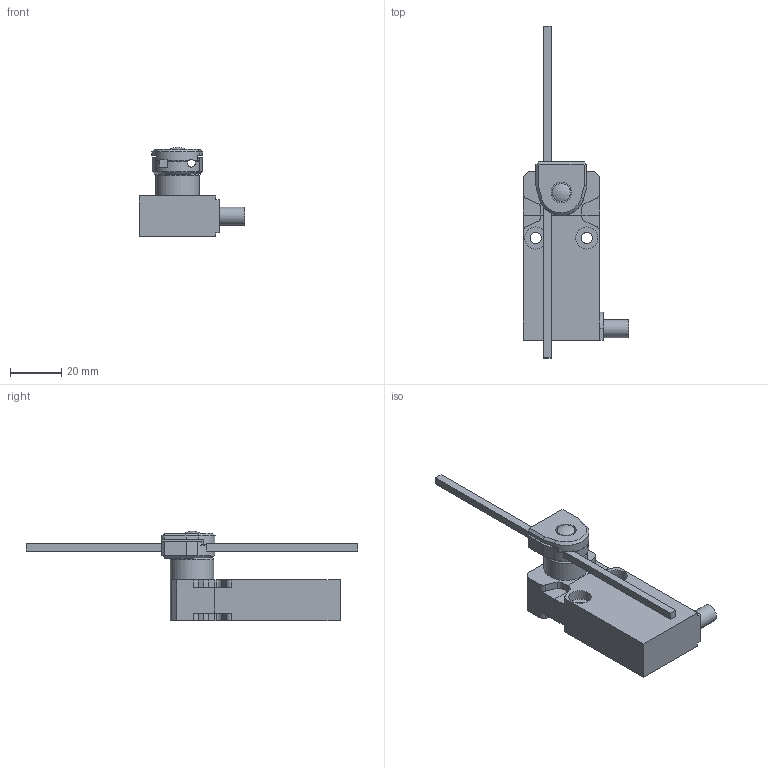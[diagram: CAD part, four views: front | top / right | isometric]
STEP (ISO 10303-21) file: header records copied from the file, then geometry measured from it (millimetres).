
FILE_DESCRIPTION(/* description */ (''),/* implementation_level */ '2;1');
FILE_NAME(/* name */ 'C:\Users\servizio.tecnico\Desktop\CADENAS\3D\EP1_STP\STP_EP1_G75U.stp',/* time_stamp */ '2017-09-01T08:57:00+02:00',/* author */ ('servizio.tecnico'),/* organization */ (''),/* preprocessor_version */ 'ST-DEVELOPER v16.1',/* originating_system */ 'Autodesk Inventor 2016',/* authorisation */ '');
FILE_SCHEMA (('AUTOMOTIVE_DESIGN { 1 0 10303 214 3 1 1 }'));
Length unit declared in the file: millimetre
Products named in the file (3): Product; EP1G75; BASE ASSI 
Assembly tree (2 placements, depth 3):
  BASE ASSI 
    EP1G75
      Product
Bounding box: 41.5 x 130 x 35.03 mm (x, y, z)
Volume: 35639.1 mm3; surface area: 13361.2 mm2
Topology: 4 solids, 4 shells, 169 faces, 434 edges, 284 vertices
Faces by surface type: plane 125, cylinder 40, cone 2, sphere 1, torus 1
Full cylindrical faces by diameter (mm): 4.4 x2, 7 x2, 8 x1, 8.7 x4, 11 x1, 17 x1
Entity records: 5171 total; most frequent: CARTESIAN_POINT 906, DIRECTION 858, ORIENTED_EDGE 840, EDGE_CURVE 420, LINE 326, VECTOR 326, VERTEX_POINT 282, AXIS2_PLACEMENT_3D 266
